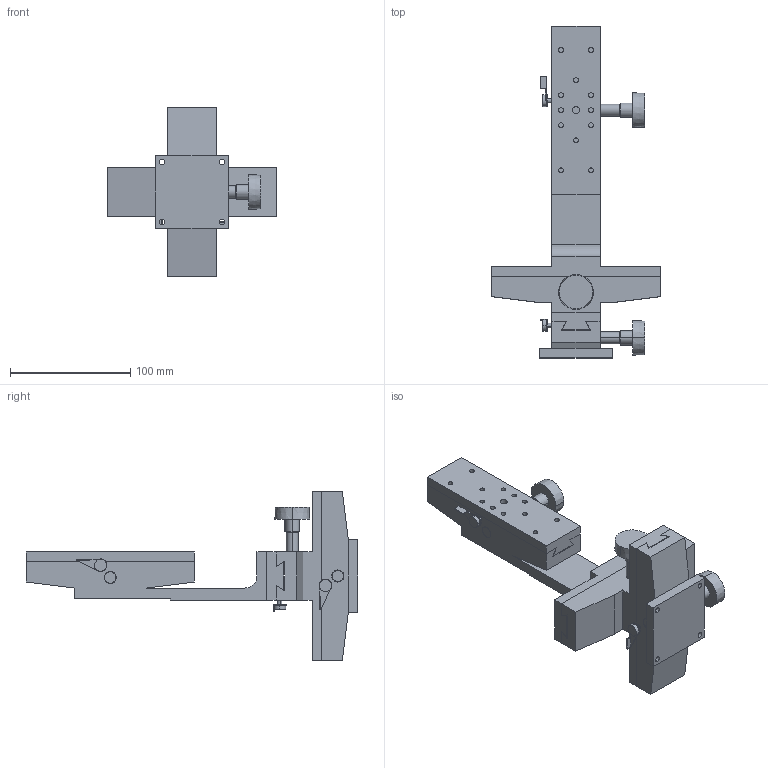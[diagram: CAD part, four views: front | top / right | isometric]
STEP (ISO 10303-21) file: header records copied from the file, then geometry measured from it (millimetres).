
FILE_DESCRIPTION (( 'STEP AP203' ), '1' );
FILE_NAME ('LT-112.STEP', '2008-03-04T00:34:17', ( '' ), ( '' ), 'SwSTEP 2.0', 'SolidWorks 2007', '' );
FILE_SCHEMA (( 'CONFIG_CONTROL_DESIGN' ));
Length unit declared in the file: millimetre
Products named in the file (5): LT-112-3; LT-112-2; LT-112-1; LT-112; LT-112-4
Assembly tree (4 placements, depth 2):
  LT-112
    LT-112-3
    LT-112-1
    LT-112-2
    LT-112-4
Bounding box: 140 x 276 x 140 mm (x, y, z)
Volume: 609238.6 mm3; surface area: 147892.6 mm2
Topology: 4 solids, 6 shells, 360 faces, 866 edges, 573 vertices
Faces by surface type: plane 189, cylinder 165, cone 6
Entity records: 11220 total; most frequent: DIRECTION 1951, CARTESIAN_POINT 1806, ORIENTED_EDGE 1732, EDGE_CURVE 866, AXIS2_PLACEMENT_3D 718, VERTEX_POINT 573, VECTOR 515, LINE 515
